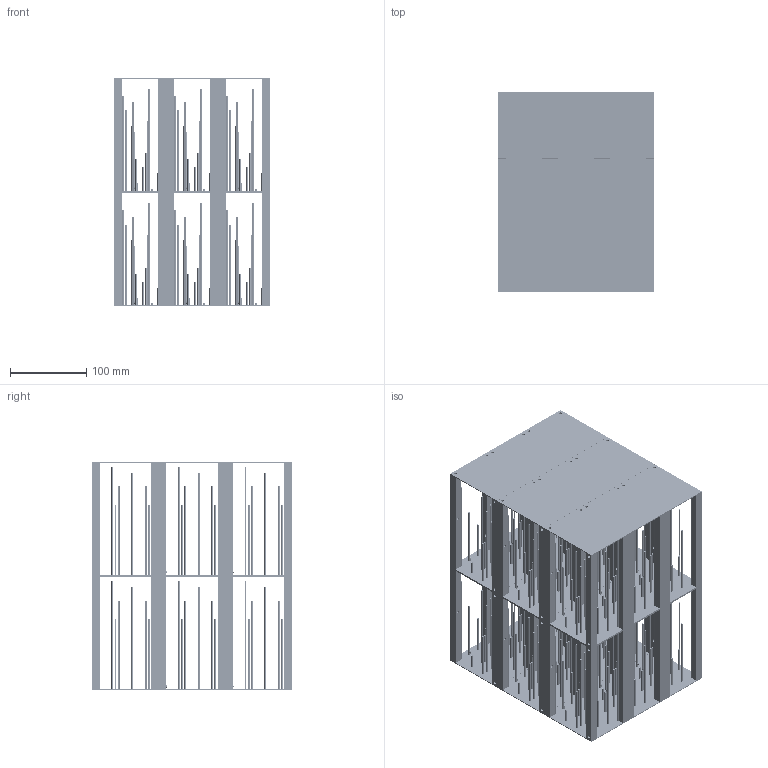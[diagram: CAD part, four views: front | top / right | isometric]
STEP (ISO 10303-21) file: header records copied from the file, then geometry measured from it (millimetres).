
FILE_DESCRIPTION(('FreeCAD Model'),'2;1');
FILE_NAME('Open CASCADE Shape Model','2026-10-14T18:37:58',('Author'),( ''),'Open CASCADE STEP processor 7.5','FreeCAD','Unknown');
FILE_SCHEMA(('AUTOMOTIVE_DESIGN { 1 0 10303 214 1 1 1 1 }'));
Length unit declared in the file: millimetre
Products named in the file (45): CrystalExhibit; CellTemplate; SupportMatrix; Pin_x0000; Pin_x0001; Pin_x0010; Pin_x0011; Pin_x0100; Pin_x0101; Pin_x0110; Pin_x0111; Pin_z0000; Pin_z0001; Pin_z0100; Pin_z0101; Pin_z0200; Pin_z0201; Pin_x1000; Pin_x1001; Pin_x1010; Pin_x1011; Pin_x1100; Pin_x1101; Pin_x1110; Pin_x1111; Pin_z1000; Pin_z1001; Pin_z1100; Pin_z1101; Pin_z1200; Pin_z1201; Pin_x2000; Pin_x2001; Pin_x2010; Pin_x2011; Pin_x2100; Pin_x2101; Pin_x2110; Pin_x2111; Pin_z2000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
Assembly tree (61 placements, depth 3):
  CrystalExhibit
    CellTemplate  x18
      SupportMatrix
    Pin_x0000
    Pin_x0001
    Pin_x0010
    Pin_x0011
    Pin_x0100
    Pin_x0101
    Pin_x0110
    Pin_x0111
    Pin_z0000
    Pin_z0001
    Pin_z0100
    Pin_z0101
    Pin_z0200
    Pin_z0201
    Pin_x1000
    Pin_x1001
    Pin_x1010
    Pin_x1011
    Pin_x1100
    Pin_x1101
    Pin_x1110
    Pin_x1111
    Pin_z1000
    Pin_z1001
    Pin_z1100
    Pin_z1101
    Pin_z1200
    Pin_z1201
    Pin_x2000
    Pin_x2001
    Pin_x2010
    Pin_x2011
    Pin_x2100
    Pin_x2101
    Pin_x2110
    Pin_x2111
    Pin_z2000
    Pin_z2001
    Pin_z2100
    Pin_z2101
    Pin_z2200
    Pin_z2201
Bounding box: 204.58 x 261.8 x 300 mm (x, y, z)
Volume: 1443361.1 mm3; surface area: 1079964.8 mm2
Topology: 60 solids, 60 shells, 2952 faces, 6534 edges, 4080 vertices
Faces by surface type: plane 1776, cylinder 654, sphere 522
Full cylindrical faces by diameter (mm): 2.4 x378, 3 x42, 3.5 x144
Entity records: 16767 total; most frequent: CARTESIAN_POINT 5793, DIRECTION 2169, ORIENTED_EDGE 886, PCURVE 886, DEFINITIONAL_REPRESENTATION 886, LINE 802, VECTOR 802, AXIS2_PLACEMENT_3D 574
